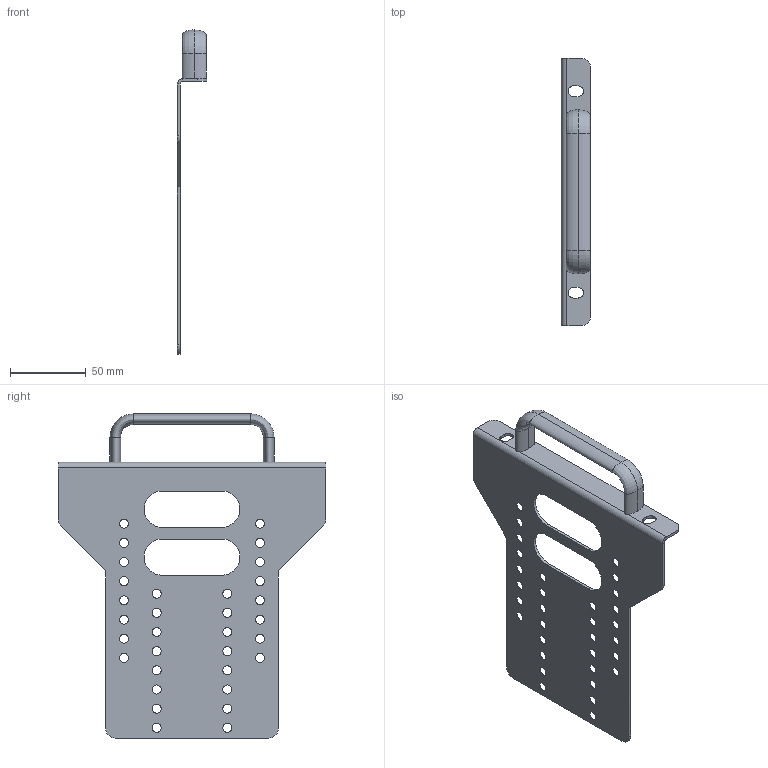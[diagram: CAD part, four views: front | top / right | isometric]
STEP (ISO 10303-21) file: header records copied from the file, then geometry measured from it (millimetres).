
FILE_DESCRIPTION((''),'2;1');
FILE_NAME('ASSY_BKT_RACK_MOUNT_FRONT_PXI_S_ASM','2018-06-06T',('talbott'),(''),'CREO PARAMETRIC BY PTC INC, 2017480','CREO PARAMETRIC BY PTC INC, 2017480','');
FILE_SCHEMA(('AUTOMOTIVE_DESIGN { 1 0 10303 214 1 1 1 1 }'));
Length unit declared in the file: millimetre
Products named in the file (4): BKT_FRONT_RACK_MOUNT_PXI_SHORT; HANDLE_OVAL_7X16MM_M4_32H; FLH_PHIL_M4007X08_SS; ASSY_BKT_RACK_MOUNT_FRONT_PXI_S_ASM
Assembly tree (4 placements, depth 2):
  ASSY_BKT_RACK_MOUNT_FRONT_PXI_S_ASM
    BKT_FRONT_RACK_MOUNT_PXI_SHORT
    HANDLE_OVAL_7X16MM_M4_32H
    FLH_PHIL_M4007X08_SS  x2
Bounding box: 19.53 x 177 x 214.57 mm (x, y, z)
Volume: 56748.5 mm3; surface area: 56219.8 mm2
Topology: 4 solids, 6 shells, 298 faces, 700 edges, 404 vertices
Faces by surface type: plane 96, cylinder 96, cone 88, bspline 8, extrusion 6, revolution 4
Entity records: 8988 total; most frequent: CARTESIAN_POINT 1545, DIRECTION 1374, ORIENTED_EDGE 1188, EDGE_CURVE 598, AXIS2_PLACEMENT_3D 528, VERTEX_POINT 376, EDGE_LOOP 333, VECTOR 314
